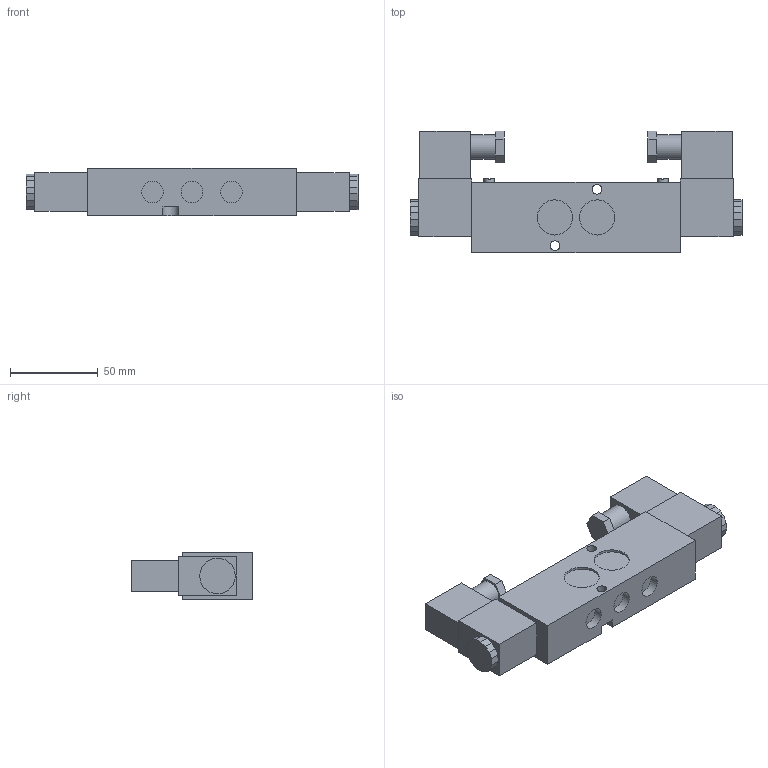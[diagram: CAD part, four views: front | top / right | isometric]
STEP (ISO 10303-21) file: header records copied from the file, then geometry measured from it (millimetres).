
FILE_DESCRIPTION(('STEP AP203'), '1');
FILE_NAME('4M320-08 AC220V 砅槻斁譇厴謥麧錒蠈錪 DN.RU', '2026-04-20T19:41:46', ('R2D2'), (''), 'C3D Converter', 'C3D Toolkit', '');
FILE_SCHEMA(('CONFIG_CONTROL_DESIGN'));
Length unit declared in the file: millimetre
Products named in the file (1): 4M320-08 AC220V
Bounding box: 188.8 x 69 x 27 mm (x, y, z)
Volume: 205387.6 mm3; surface area: 34227.5 mm2
Topology: 1 solids, 1 shells, 112 faces, 281 edges, 186 vertices
Faces by surface type: plane 99, cylinder 13
Full cylindrical faces by diameter (mm): 5.5 x2, 6 x2, 12.3 x3, 14 x2, 20 x2
Entity records: 3865 total; most frequent: CARTESIAN_POINT 569, ORIENTED_EDGE 540, DIRECTION 530, EDGE_CURVE 270, LINE 236, VECTOR 236, VERTEX_POINT 186, AXIS2_PLACEMENT_3D 147
